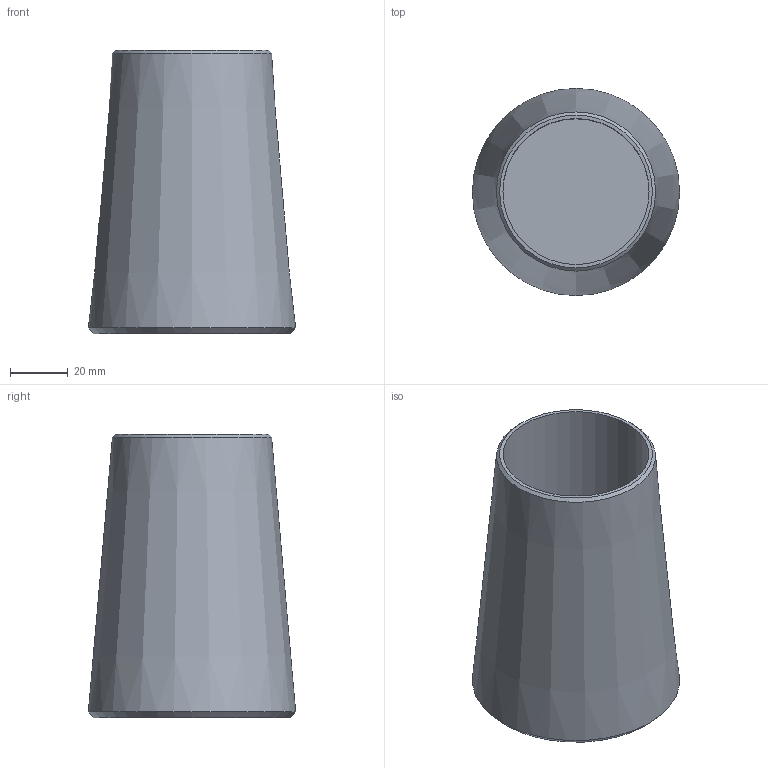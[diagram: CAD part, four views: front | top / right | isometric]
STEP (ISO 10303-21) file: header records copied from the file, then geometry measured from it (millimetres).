
FILE_DESCRIPTION(/* description */ (''),/* implementation_level */ '2;1');
FILE_NAME(/* name */ 'C:\Vault_WS\Designs\SB\01-PX\Verzinkt\ZSS\520 - Kontermutter\520-048-KMU.stp',/* time_stamp */ '2020-06-18T12:28:44+02:00',/* author */ ('schwarz'),/* organization */ (''),/* preprocessor_version */ 'ST-DEVELOPER v16.1',/* originating_system */ 'Autodesk Inventor 2016',/* authorisation */ '');
FILE_SCHEMA (('AUTOMOTIVE_DESIGN { 1 0 10303 214 3 1 1 }'));
Length unit declared in the file: millimetre
Products named in the file (1): Kontermutter 520 048 Kunde
Bounding box: 71.65 x 71.65 x 98 mm (x, y, z)
Volume: 162776.9 mm3; surface area: 37386.5 mm2
Topology: 1 solids, 1 shells, 7 faces, 10 edges, 6 vertices
Faces by surface type: cone 3, plane 3, cylinder 1
Full cylindrical faces by diameter (mm): 50.5 x1
Entity records: 158 total; most frequent: DIRECTION 28, CARTESIAN_POINT 20, AXIS2_PLACEMENT_3D 14, EDGE_LOOP 12, ORIENTED_EDGE 12, FACE_OUTER_BOUND 7, ADVANCED_FACE 7, CIRCLE 6
